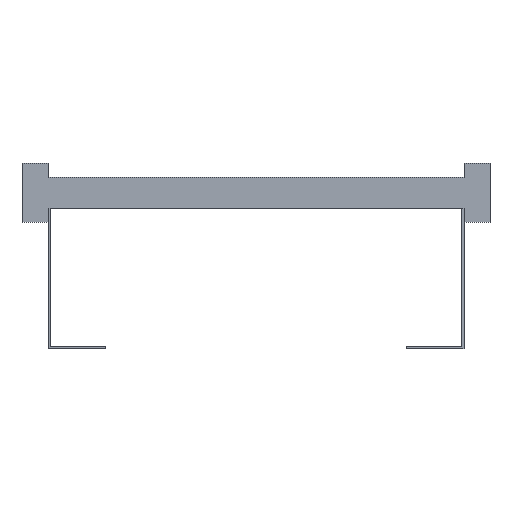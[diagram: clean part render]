
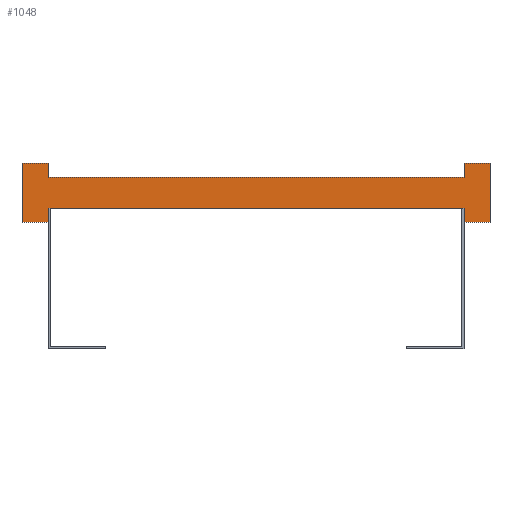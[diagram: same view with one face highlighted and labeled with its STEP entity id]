
A CAD part, front view. The second image highlights one B-rep face of the part: STEP entity #1048.
In plain terms, the highlighted planar face has unit normal (0, -1, 0).
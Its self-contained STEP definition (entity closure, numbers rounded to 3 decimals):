
#1=DIRECTION('',(0.,0.,1.));
#2=VECTOR('',#1,13.5);
#3=CARTESIAN_POINT('',(200.,0.,-28.5));
#4=LINE('',#3,#2);
#5=DIRECTION('',(0.,0.,-1.));
#6=VECTOR('',#5,13.5);
#7=CARTESIAN_POINT('',(-200.,0.,-15.));
#8=LINE('',#7,#6);
#9=DIRECTION('',(-1.,0.,0.));
#10=VECTOR('',#9,25.);
#11=CARTESIAN_POINT('',(-200.,0.,-28.5));
#12=LINE('',#11,#10);
#13=DIRECTION('',(0.,0.,1.));
#14=VECTOR('',#13,57.);
#15=CARTESIAN_POINT('',(-225.,0.,-28.5));
#16=LINE('',#15,#14);
#17=DIRECTION('',(1.,0.,0.));
#18=VECTOR('',#17,25.);
#19=CARTESIAN_POINT('',(-225.,0.,28.5));
#20=LINE('',#19,#18);
#21=DIRECTION('',(0.,0.,-1.));
#22=VECTOR('',#21,13.5);
#23=CARTESIAN_POINT('',(-200.,0.,28.5));
#24=LINE('',#23,#22);
#25=DIRECTION('',(0.,0.,1.));
#26=VECTOR('',#25,13.5);
#27=CARTESIAN_POINT('',(200.,0.,15.));
#28=LINE('',#27,#26);
#29=DIRECTION('',(1.,0.,0.));
#30=VECTOR('',#29,25.);
#31=CARTESIAN_POINT('',(200.,0.,28.5));
#32=LINE('',#31,#30);
#33=DIRECTION('',(0.,0.,-1.));
#34=VECTOR('',#33,57.);
#35=CARTESIAN_POINT('',(225.,0.,28.5));
#36=LINE('',#35,#34);
#37=DIRECTION('',(-1.,0.,0.));
#38=VECTOR('',#37,25.);
#39=CARTESIAN_POINT('',(225.,0.,-28.5));
#40=LINE('',#39,#38);
#753=DIRECTION('',(1.,0.,0.));
#754=VECTOR('',#753,400.);
#755=CARTESIAN_POINT('',(-200.,0.,-15.));
#756=LINE('',#755,#754);
#765=DIRECTION('',(1.,0.,0.));
#766=VECTOR('',#765,400.);
#767=CARTESIAN_POINT('',(-200.,0.,15.));
#768=LINE('',#767,#766);
#769=CARTESIAN_POINT('',(-225.,0.,28.5));
#770=CARTESIAN_POINT('',(-200.,0.,28.5));
#771=VERTEX_POINT('',#769);
#772=VERTEX_POINT('',#770);
#773=CARTESIAN_POINT('',(-200.,0.,-28.5));
#774=CARTESIAN_POINT('',(-225.,0.,-28.5));
#775=VERTEX_POINT('',#773);
#776=VERTEX_POINT('',#774);
#777=CARTESIAN_POINT('',(225.,0.,28.5));
#778=CARTESIAN_POINT('',(225.,0.,-28.5));
#779=VERTEX_POINT('',#777);
#780=VERTEX_POINT('',#778);
#781=CARTESIAN_POINT('',(200.,0.,-28.5));
#782=VERTEX_POINT('',#781);
#783=CARTESIAN_POINT('',(200.,0.,28.5));
#784=VERTEX_POINT('',#783);
#801=CARTESIAN_POINT('',(-200.,0.,-15.));
#803=VERTEX_POINT('',#801);
#805=CARTESIAN_POINT('',(-200.,0.,15.));
#807=VERTEX_POINT('',#805);
#809=CARTESIAN_POINT('',(200.,0.,-15.));
#811=VERTEX_POINT('',#809);
#813=CARTESIAN_POINT('',(200.,0.,15.));
#815=VERTEX_POINT('',#813);
#1017=CARTESIAN_POINT('',(0.,0.,0.));
#1018=DIRECTION('',(0.,1.,0.));
#1019=DIRECTION('',(1.,0.,0.));
#1020=AXIS2_PLACEMENT_3D('',#1017,#1018,#1019);
#1021=PLANE('',#1020);
#1023=ORIENTED_EDGE('',*,*,#1022,.T.);
#1025=ORIENTED_EDGE('',*,*,#1024,.F.);
#1027=ORIENTED_EDGE('',*,*,#1026,.T.);
#1029=ORIENTED_EDGE('',*,*,#1028,.T.);
#1031=ORIENTED_EDGE('',*,*,#1030,.T.);
#1033=ORIENTED_EDGE('',*,*,#1032,.T.);
#1035=ORIENTED_EDGE('',*,*,#1034,.T.);
#1037=ORIENTED_EDGE('',*,*,#1036,.T.);
#1039=ORIENTED_EDGE('',*,*,#1038,.T.);
#1041=ORIENTED_EDGE('',*,*,#1040,.T.);
#1043=ORIENTED_EDGE('',*,*,#1042,.T.);
#1045=ORIENTED_EDGE('',*,*,#1044,.T.);
#1046=EDGE_LOOP('',(#1023,#1025,#1027,#1029,#1031,#1033,#1035,#1037,#1039,#1041,
#1043,#1045));
#1047=FACE_OUTER_BOUND('',#1046,.F.);
#1048=ADVANCED_FACE('',(#1047),#1021,.F.);
#1022=EDGE_CURVE('',#782,#811,#4,.T.);
#1024=EDGE_CURVE('',#803,#811,#756,.T.);
#1026=EDGE_CURVE('',#803,#775,#8,.T.);
#1028=EDGE_CURVE('',#775,#776,#12,.T.);
#1030=EDGE_CURVE('',#776,#771,#16,.T.);
#1032=EDGE_CURVE('',#771,#772,#20,.T.);
#1034=EDGE_CURVE('',#772,#807,#24,.T.);
#1036=EDGE_CURVE('',#807,#815,#768,.T.);
#1038=EDGE_CURVE('',#815,#784,#28,.T.);
#1040=EDGE_CURVE('',#784,#779,#32,.T.);
#1042=EDGE_CURVE('',#779,#780,#36,.T.);
#1044=EDGE_CURVE('',#780,#782,#40,.T.);
